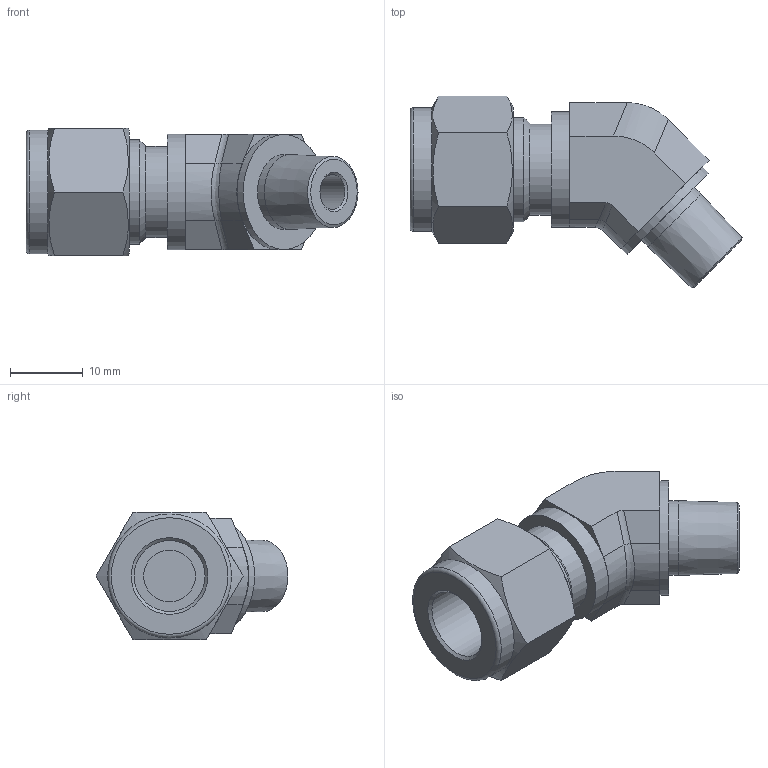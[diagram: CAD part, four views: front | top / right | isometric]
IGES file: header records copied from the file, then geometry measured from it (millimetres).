
Global section: file name: No Iges File Name specified; native system: Autodesk Inventor 2012; preprocessor: AutoDesk Inventor Iges Exporter R2012; author: 硅己绕,, ; organization: 11; date: 20150603.091903; units: millimetre
Bounding box: 45.55 x 26.32 x 17.46 mm (x, y, z)
Volume: 7350 mm3; surface area: 3764.1 mm2
Topology: 1 solids, 1 shells, 51 faces, 105 edges, 65 vertices
Faces by surface type: plane 27, cylinder 10, revolution 7, cone 5, bspline 1, torus 1
Full cylindrical faces by diameter (mm): 10.28 x1, 12.5 x1, 14.28 x1, 15.8 x2, 17 x1
